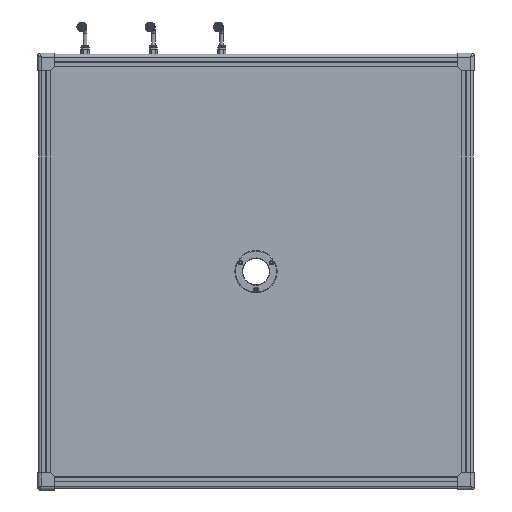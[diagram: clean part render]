
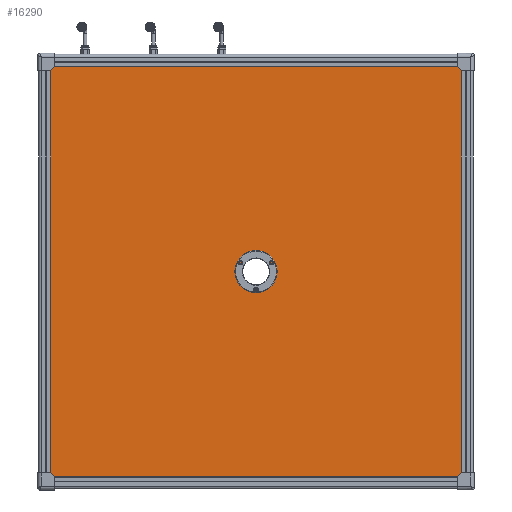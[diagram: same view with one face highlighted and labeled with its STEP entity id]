
A CAD part, front view. The second image highlights one B-rep face of the part: STEP entity #16290.
In plain terms, the highlighted planar face has unit normal (0, -1, 0).
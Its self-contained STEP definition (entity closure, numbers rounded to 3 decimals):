
#671 = FACE_BOUND ( 'NONE', #6159, .T. ) ;
#739 = FACE_OUTER_BOUND ( 'NONE', #6168, .T. ) ;
#1540 = EDGE_CURVE ( 'NONE', #7186, #7182, #5562, .T. ) ;
#2319 = CARTESIAN_POINT ( 'NONE',  ( -299.75, 2.5, 300.25 ) ) ;
#2320 = DIRECTION ( 'NONE',  ( 0., 0., 1. ) ) ;
#2414 = CARTESIAN_POINT ( 'NONE',  ( -300.25, 2.5, -300.25 ) ) ;
#2415 = DIRECTION ( 'NONE',  ( 1., 0., 0. ) ) ;
#2489 = CARTESIAN_POINT ( 'NONE',  ( 0., 2.5, 0. ) ) ;
#2495 = DIRECTION ( 'NONE',  ( 0., -1., 0. ) ) ;
#2496 = DIRECTION ( 'NONE',  ( 0., 0., -1. ) ) ;
#2604 = CARTESIAN_POINT ( 'NONE',  ( -300.25, 2.5, 300.25 ) ) ;
#2605 = DIRECTION ( 'NONE',  ( 0., 0., -1. ) ) ;
#2661 = CARTESIAN_POINT ( 'NONE',  ( -300.25, 2.5, -299.75 ) ) ;
#2662 = DIRECTION ( 'NONE',  ( -1., 0., 0. ) ) ;
#2802 = CARTESIAN_POINT ( 'NONE',  ( 0., 2.5, -22.3 ) ) ;
#2841 = CARTESIAN_POINT ( 'NONE',  ( 0., 2.5, 22.3 ) ) ;
#3782 = EDGE_CURVE ( 'NONE', #7179, #7169, #5481, .T. ) ;
#3805 = CIRCLE ( 'NONE', #21879, 22.3 ) ;
#3864 = EDGE_CURVE ( 'NONE', #6437, #6476, #5415, .T. ) ;
#3991 = EDGE_CURVE ( 'NONE', #7192, #7183, #5322, .T. ) ;
#4043 = EDGE_CURVE ( 'NONE', #7172, #7166, #5282, .T. ) ;
#4099 = VECTOR ( 'NONE', #9298, 1000. ) ;
#4100 = LINE ( 'NONE', #9282, #4099 ) ;
#4188 = LINE ( 'NONE', #9358, #4257 ) ;
#4257 = VECTOR ( 'NONE', #9365, 1000. ) ;
#4287 = VECTOR ( 'NONE', #9396, 1000. ) ;
#4311 = LINE ( 'NONE', #9395, #4287 ) ;
#4388 = VECTOR ( 'NONE', #9422, 1000. ) ;
#4389 = LINE ( 'NONE', #9421, #4388 ) ;
#4695 = LINE ( 'NONE', #8856, #4699 ) ;
#4699 = VECTOR ( 'NONE', #8857, 1000. ) ;
#4863 = VECTOR ( 'NONE', #21402, 1000. ) ;
#4864 = LINE ( 'NONE', #21400, #4863 ) ;
#4897 = VECTOR ( 'NONE', #21309, 1000. ) ;
#4898 = LINE ( 'NONE', #21307, #4897 ) ;
#4926 = VECTOR ( 'NONE', #21257, 1000. ) ;
#4930 = LINE ( 'NONE', #21256, #4926 ) ;
#5281 = VECTOR ( 'NONE', #2662, 1000. ) ;
#5282 = LINE ( 'NONE', #2661, #5281 ) ;
#5321 = VECTOR ( 'NONE', #2605, 1000. ) ;
#5322 = LINE ( 'NONE', #2604, #5321 ) ;
#5415 = CIRCLE ( 'NONE', #21067, 22.3 ) ;
#5480 = VECTOR ( 'NONE', #2415, 1000. ) ;
#5481 = LINE ( 'NONE', #2414, #5480 ) ;
#5560 = VECTOR ( 'NONE', #2320, 1000. ) ;
#5562 = LINE ( 'NONE', #2319, #5560 ) ;
#6159 = EDGE_LOOP ( 'NONE', ( #17843, #17841 ) ) ;
#6168 = EDGE_LOOP ( 'NONE', ( #17839, #17837, #17835, #17833, #17831, #17829, #17827, #17825, #17823, #17821, #17819, #17817 ) ) ;
#6437 = VERTEX_POINT ( 'NONE', #2802 ) ;
#6476 = VERTEX_POINT ( 'NONE', #2841 ) ;
#7165 = VERTEX_POINT ( 'NONE', #20052 ) ;
#7166 = VERTEX_POINT ( 'NONE', #20053 ) ;
#7169 = VERTEX_POINT ( 'NONE', #20056 ) ;
#7172 = VERTEX_POINT ( 'NONE', #20059 ) ;
#7179 = VERTEX_POINT ( 'NONE', #20066 ) ;
#7180 = VERTEX_POINT ( 'NONE', #20067 ) ;
#7182 = VERTEX_POINT ( 'NONE', #20069 ) ;
#7183 = VERTEX_POINT ( 'NONE', #20070 ) ;
#7186 = VERTEX_POINT ( 'NONE', #20073 ) ;
#7188 = VERTEX_POINT ( 'NONE', #20075 ) ;
#7190 = VERTEX_POINT ( 'NONE', #20077 ) ;
#7192 = VERTEX_POINT ( 'NONE', #20079 ) ;
#7799 = EDGE_CURVE ( 'NONE', #7188, #7183, #4930, .T. ) ;
#7811 = EDGE_CURVE ( 'NONE', #7180, #7190, #4898, .T. ) ;
#7831 = EDGE_CURVE ( 'NONE', #7179, #7188, #4864, .T. ) ;
#7937 = EDGE_CURVE ( 'NONE', #7172, #7165, #4695, .T. ) ;
#8073 = EDGE_CURVE ( 'NONE', #7190, #7165, #4100, .T. ) ;
#8093 = EDGE_CURVE ( 'NONE', #7180, #7182, #4188, .T. ) ;
#8106 = EDGE_CURVE ( 'NONE', #7192, #7186, #4311, .T. ) ;
#8119 = EDGE_CURVE ( 'NONE', #7166, #7169, #4389, .T. ) ;
#8856 = CARTESIAN_POINT ( 'NONE',  ( 300.25, 2.5, -300.25 ) ) ;
#8857 = DIRECTION ( 'NONE',  ( 0., 0., 1. ) ) ;
#9282 = CARTESIAN_POINT ( 'NONE',  ( -300.25, 2.5, 299.75 ) ) ;
#9298 = DIRECTION ( 'NONE',  ( 1., 0., 0. ) ) ;
#9358 = CARTESIAN_POINT ( 'NONE',  ( 300.25, 2.5, 300.25 ) ) ;
#9365 = DIRECTION ( 'NONE',  ( -1., 0., 0. ) ) ;
#9395 = CARTESIAN_POINT ( 'NONE',  ( -300.25, 2.5, 299.75 ) ) ;
#9396 = DIRECTION ( 'NONE',  ( 1., 0., 0. ) ) ;
#9421 = CARTESIAN_POINT ( 'NONE',  ( 299.75, 2.5, 300.25 ) ) ;
#9422 = DIRECTION ( 'NONE',  ( 0., 0., -1. ) ) ;
#10488 = EDGE_CURVE ( 'NONE', #6476, #6437, #3805, .T. ) ;
#10685 = CARTESIAN_POINT ( 'NONE',  ( -300.25, 2.5, 300.25 ) ) ;
#10692 = PLANE ( 'NONE',  #14030 ) ;
#10701 = DIRECTION ( 'NONE',  ( 0., -1., 0. ) ) ;
#10702 = DIRECTION ( 'NONE',  ( 0., 0., -1. ) ) ;
#11903 = CARTESIAN_POINT ( 'NONE',  ( 0., 2.5, 0. ) ) ;
#11918 = DIRECTION ( 'NONE',  ( 0., -1., 0. ) ) ;
#11919 = DIRECTION ( 'NONE',  ( 0., 0., -1. ) ) ;
#14030 = AXIS2_PLACEMENT_3D ( 'NONE', #10685, #10701, #10702 ) ;
#16290 = ADVANCED_FACE ( 'NONE', ( #671, #739 ), #10692, .T. ) ;
#17817 = ORIENTED_EDGE ( 'NONE', *, *, #8073, .F. ) ;
#17819 = ORIENTED_EDGE ( 'NONE', *, *, #7937, .T. ) ;
#17821 = ORIENTED_EDGE ( 'NONE', *, *, #4043, .F. ) ;
#17823 = ORIENTED_EDGE ( 'NONE', *, *, #8119, .F. ) ;
#17825 = ORIENTED_EDGE ( 'NONE', *, *, #3782, .T. ) ;
#17827 = ORIENTED_EDGE ( 'NONE', *, *, #7831, .F. ) ;
#17829 = ORIENTED_EDGE ( 'NONE', *, *, #7799, .F. ) ;
#17831 = ORIENTED_EDGE ( 'NONE', *, *, #3991, .T. ) ;
#17833 = ORIENTED_EDGE ( 'NONE', *, *, #8106, .F. ) ;
#17835 = ORIENTED_EDGE ( 'NONE', *, *, #1540, .F. ) ;
#17837 = ORIENTED_EDGE ( 'NONE', *, *, #8093, .T. ) ;
#17839 = ORIENTED_EDGE ( 'NONE', *, *, #7811, .F. ) ;
#17841 = ORIENTED_EDGE ( 'NONE', *, *, #3864, .F. ) ;
#17843 = ORIENTED_EDGE ( 'NONE', *, *, #10488, .F. ) ;
#20052 = CARTESIAN_POINT ( 'NONE',  ( 300.25, 2.5, 299.75 ) ) ;
#20053 = CARTESIAN_POINT ( 'NONE',  ( 299.75, 2.5, -299.75 ) ) ;
#20056 = CARTESIAN_POINT ( 'NONE',  ( 299.75, 2.5, -300.25 ) ) ;
#20059 = CARTESIAN_POINT ( 'NONE',  ( 300.25, 2.5, -299.75 ) ) ;
#20066 = CARTESIAN_POINT ( 'NONE',  ( -299.75, 2.5, -300.25 ) ) ;
#20067 = CARTESIAN_POINT ( 'NONE',  ( 299.75, 2.5, 300.25 ) ) ;
#20069 = CARTESIAN_POINT ( 'NONE',  ( -299.75, 2.5, 300.25 ) ) ;
#20070 = CARTESIAN_POINT ( 'NONE',  ( -300.25, 2.5, -299.75 ) ) ;
#20073 = CARTESIAN_POINT ( 'NONE',  ( -299.75, 2.5, 299.75 ) ) ;
#20075 = CARTESIAN_POINT ( 'NONE',  ( -299.75, 2.5, -299.75 ) ) ;
#20077 = CARTESIAN_POINT ( 'NONE',  ( 299.75, 2.5, 299.75 ) ) ;
#20079 = CARTESIAN_POINT ( 'NONE',  ( -300.25, 2.5, 299.75 ) ) ;
#21067 = AXIS2_PLACEMENT_3D ( 'NONE', #2489, #2495, #2496 ) ;
#21256 = CARTESIAN_POINT ( 'NONE',  ( -300.25, 2.5, -299.75 ) ) ;
#21257 = DIRECTION ( 'NONE',  ( -1., 0., 0. ) ) ;
#21307 = CARTESIAN_POINT ( 'NONE',  ( 299.75, 2.5, 300.25 ) ) ;
#21309 = DIRECTION ( 'NONE',  ( 0., 0., -1. ) ) ;
#21400 = CARTESIAN_POINT ( 'NONE',  ( -299.75, 2.5, 300.25 ) ) ;
#21402 = DIRECTION ( 'NONE',  ( 0., 0., 1. ) ) ;
#21879 = AXIS2_PLACEMENT_3D ( 'NONE', #11903, #11918, #11919 ) ;
